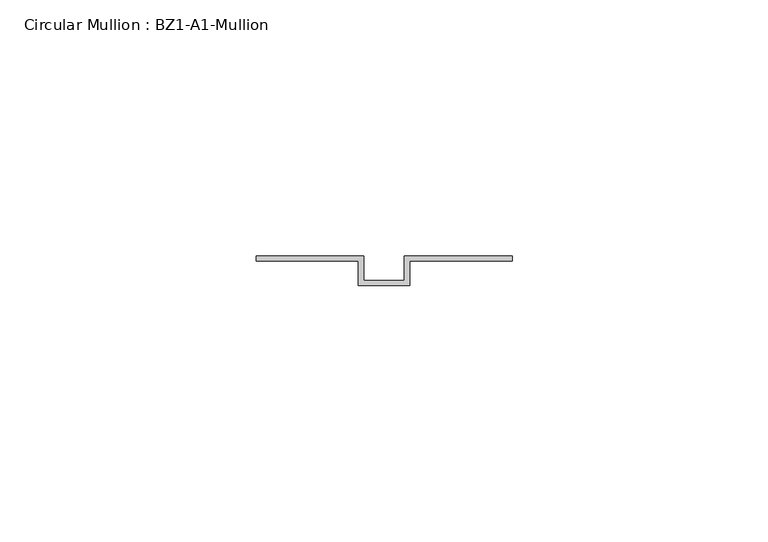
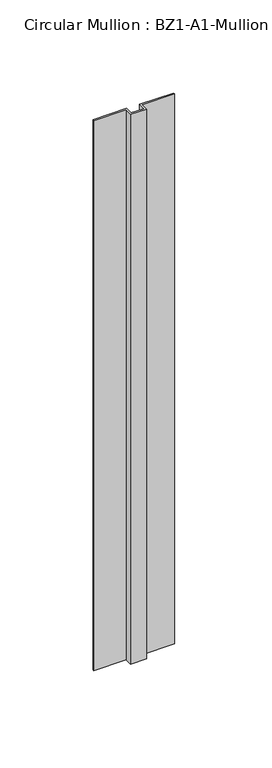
"""IFC4 building model written with IfcOpenShell, lengths in millimetres: member geometry, Circular Mullion : BZ1-A1-Mullion."""

from ifc_helpers import new_model, si_unit, frame, origin, place, context, project, spatial, polyline, outline, extrude, source, transform, mapped, element, save


def circular_mullion_bz1_a1_mullion_c4769f69(model_context):
    return source(origin(), model_context, "Body", "SweptSolid", [
        extrude(outline(polyline([(-25.0, 11.0), (-4.0, 11.0), (-4.0, 6.2), (4.0, 6.2), (4.0, 11.0), (25.0, 11.0), (25.0, 10.0), (5.0, 10.0), (5.0, 5.2), (-5.0, 5.2), (-5.0, 10.0), (-25.0, 10.0), (-25.0, 11.0)])), frame((0.0, 0.0, -360.8333334), z_axis=(0.0, 0.0, 1.0), x_axis=(1.0, 0.0, 0.0)), (0.0, 0.0, 1.0), 360.8333334),
    ])


if __name__ == "__main__":
    model = new_model("IFC4")
    model_context = context("Model", 3, world=origin())
    ifc_project = project(units=[si_unit("LENGTHUNIT", "METRE", prefix="MILLI")], contexts=[model_context])
    site = spatial("IfcSite", under=ifc_project)
    building = spatial("IfcBuilding", under=site)
    placement = place(None, origin())
    circular_mullion_bz1_a1_mullion_shape = circular_mullion_bz1_a1_mullion_c4769f69(model_context)
    element("IfcMember", 1, ObjectType="Circular Mullion : BZ1-A1-Mullion", at=placement, inside=building, context=model_context, shape_type="MappedRepresentation", body=[
        mapped(circular_mullion_bz1_a1_mullion_shape, transform((0.0, 0.0, 0.0), x_axis=(1.0, 0.0, 0.0), y_axis=(0.0, 1.0, 0.0), z_axis=(0.0, 0.0, 1.0))),
    ])
    save(model, "model.ifc")
